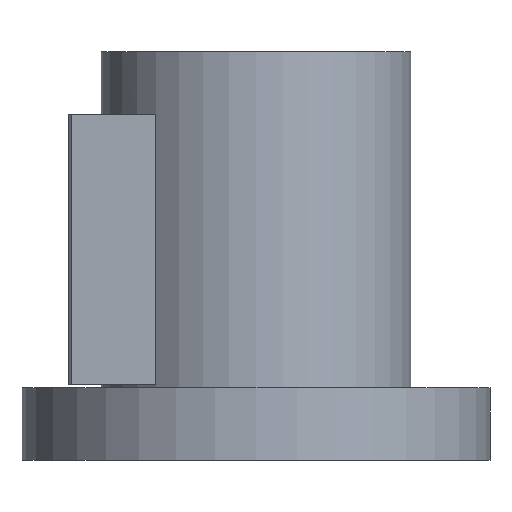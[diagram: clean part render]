
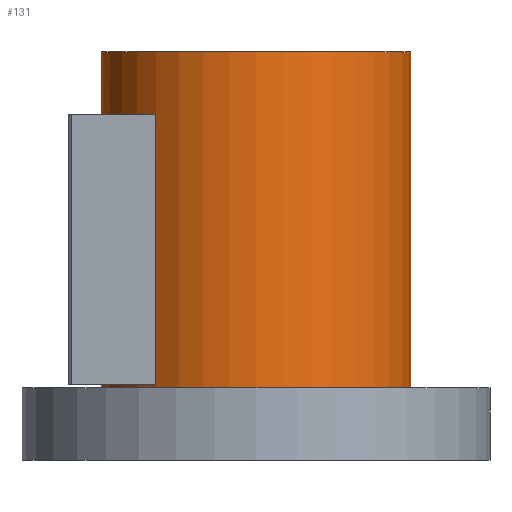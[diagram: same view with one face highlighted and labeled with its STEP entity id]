
A CAD part, front view. The second image highlights one B-rep face of the part: STEP entity #131.
In plain terms, the highlighted cylindrical face has radius 47 mm (diameter 94 mm), a full revolution.
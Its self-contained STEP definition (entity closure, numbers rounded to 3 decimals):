
#131=ADVANCED_FACE('',(#218,#219,#220),#161,.T.);
#161=CYLINDRICAL_SURFACE('',#550,47.);
#174=LINE('',#752,#196);
#175=LINE('',#756,#197);
#196=VECTOR('',#612,1.);
#197=VECTOR('',#615,1.);
#218=FACE_BOUND('',#263,.T.);
#219=FACE_BOUND('',#264,.T.);
#220=FACE_BOUND('',#265,.T.);
#263=EDGE_LOOP('',(#325));
#264=EDGE_LOOP('',(#326));
#265=EDGE_LOOP('',(#327,#328,#329,#330));
#325=ORIENTED_EDGE('',*,*,#467,.F.);
#326=ORIENTED_EDGE('',*,*,#468,.T.);
#327=ORIENTED_EDGE('',*,*,#469,.F.);
#328=ORIENTED_EDGE('',*,*,#470,.F.);
#329=ORIENTED_EDGE('',*,*,#471,.T.);
#330=ORIENTED_EDGE('',*,*,#472,.F.);
#425=VERTEX_POINT('',#746);
#426=VERTEX_POINT('',#748);
#427=VERTEX_POINT('',#750);
#428=VERTEX_POINT('',#751);
#429=VERTEX_POINT('',#753);
#430=VERTEX_POINT('',#755);
#467=EDGE_CURVE('',#425,#425,#517,.T.);
#468=EDGE_CURVE('',#426,#426,#518,.T.);
#469=EDGE_CURVE('',#427,#428,#519,.T.);
#470=EDGE_CURVE('',#429,#427,#174,.T.);
#471=EDGE_CURVE('',#429,#430,#520,.T.);
#472=EDGE_CURVE('',#428,#430,#175,.T.);
#517=CIRCLE('',#546,47.);
#518=CIRCLE('',#547,47.);
#519=CIRCLE('',#548,47.);
#520=CIRCLE('',#549,47.);
#546=AXIS2_PLACEMENT_3D('',#745,#606,#607);
#547=AXIS2_PLACEMENT_3D('',#747,#608,#609);
#548=AXIS2_PLACEMENT_3D('',#749,#610,#611);
#549=AXIS2_PLACEMENT_3D('',#754,#613,#614);
#550=AXIS2_PLACEMENT_3D('',#757,#616,#617);
#606=DIRECTION('',(0.,0.,1.));
#607=DIRECTION('',(1.,0.,0.));
#608=DIRECTION('',(0.,0.,1.));
#609=DIRECTION('',(1.,0.,0.));
#610=DIRECTION('',(0.,0.,-1.));
#611=DIRECTION('',(-1.,0.,0.));
#612=DIRECTION('',(0.,0.,1.));
#613=DIRECTION('',(0.,0.,-1.));
#614=DIRECTION('',(-1.,0.,0.));
#615=DIRECTION('',(0.,0.,-1.));
#616=DIRECTION('',(0.,0.,-1.));
#617=DIRECTION('',(-1.,0.,0.));
#745=CARTESIAN_POINT('',(0.,0.,124.));
#746=CARTESIAN_POINT('',(47.,0.,124.));
#747=CARTESIAN_POINT('',(0.,0.,22.));
#748=CARTESIAN_POINT('',(47.,0.,22.));
#749=CARTESIAN_POINT('',(0.,0.,105.));
#750=CARTESIAN_POINT('',(-30.5,-35.76,105.));
#751=CARTESIAN_POINT('',(-30.5,35.76,105.));
#752=CARTESIAN_POINT('',(-30.5,-35.76,124.));
#753=CARTESIAN_POINT('',(-30.5,-35.76,23.));
#754=CARTESIAN_POINT('',(0.,0.,23.));
#755=CARTESIAN_POINT('',(-30.5,35.76,23.));
#756=CARTESIAN_POINT('',(-30.5,35.76,124.));
#757=CARTESIAN_POINT('',(0.,0.,124.));
